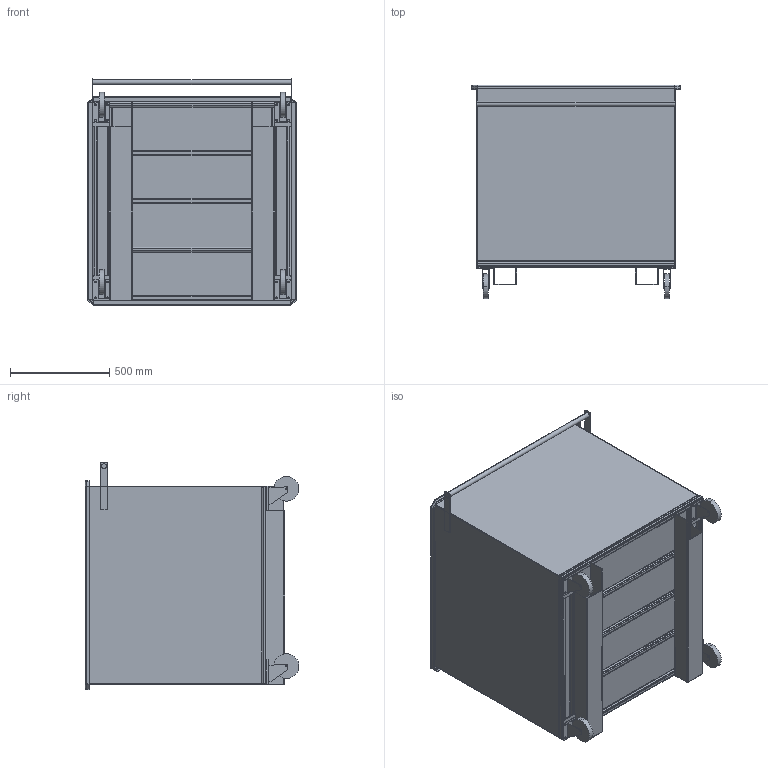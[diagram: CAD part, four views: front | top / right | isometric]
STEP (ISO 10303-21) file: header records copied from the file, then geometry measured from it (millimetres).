
FILE_DESCRIPTION (( 'STEP AP214' ), '1' );
FILE_NAME ('Sestava_vozik_2.STEP', '2025-12-02T06:32:59', ( '' ), ( '' ), 'SwSTEP 2.0', 'SolidWorks 2025', '' );
FILE_SCHEMA (( 'AUTOMOTIVE_DESIGN' ));
Length unit declared in the file: millimetre
Products named in the file (14): CGA00016; kolecko; CGA00010; CGA00009; CGA00014; CGA00015; CGA00012; CGA00013; CGA00011; CGA00004; CGA00017; Sestava_vozik_2; CGA00018; sestava_ram_2
Assembly tree (30 placements, depth 3):
  Sestava_vozik_2
    sestava_ram_2
      CGA00010  x4
      CGA00011  x2
      CGA00012  x3
    CGA00009  x4
    kolecko  x4
    CGA00013
    CGA00014  x2
    CGA00016  x4
    CGA00015  x2
    CGA00017
    CGA00004
    CGA00018
Bounding box: 1054 x 1078 x 1147 mm (x, y, z)
Volume: 19800053.8 mm3; surface area: 12323064.1 mm2
Topology: 33 solids, 33 shells, 629 faces, 1517 edges, 958 vertices
Faces by surface type: plane 367, cylinder 254, bspline 8
Entity records: 8233 total; most frequent: CARTESIAN_POINT 1491, DIRECTION 1364, ORIENTED_EDGE 1236, EDGE_CURVE 618, AXIS2_PLACEMENT_3D 465, LINE 434, VECTOR 434, VERTEX_POINT 376
